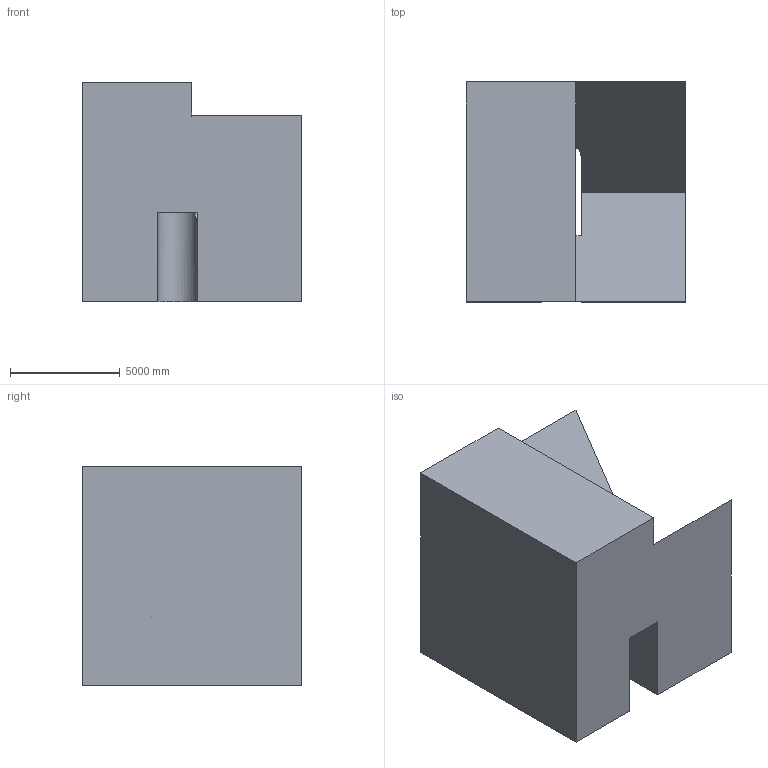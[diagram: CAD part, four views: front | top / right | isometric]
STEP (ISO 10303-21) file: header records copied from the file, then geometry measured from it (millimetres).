
FILE_DESCRIPTION (( 'STEP AP203' ), '1' );
FILE_NAME ('1049.STEP', '2022-08-18T12:33:47', ( 'user' ), ( '' ), 'SwSTEP 2.0', 'SolidWorks 2021', '' );
FILE_SCHEMA (( 'CONFIG_CONTROL_DESIGN' ));
Length unit declared in the file: centimetre
Products named in the file (1): 1049
Bounding box: 10000 x 10000 x 10000 mm (x, y, z)
Volume: 689781758431.1 mm3; surface area: 666585045.5 mm2
Topology: 1 solids, 1 shells, 13 faces, 39 edges, 26 vertices
Faces by surface type: plane 12, cylinder 1
Entity records: 516 total; most frequent: CARTESIAN_POINT 82, ORIENTED_EDGE 78, DIRECTION 68, EDGE_CURVE 39, LINE 36, VECTOR 36, VERTEX_POINT 26, AXIS2_PLACEMENT_3D 16
